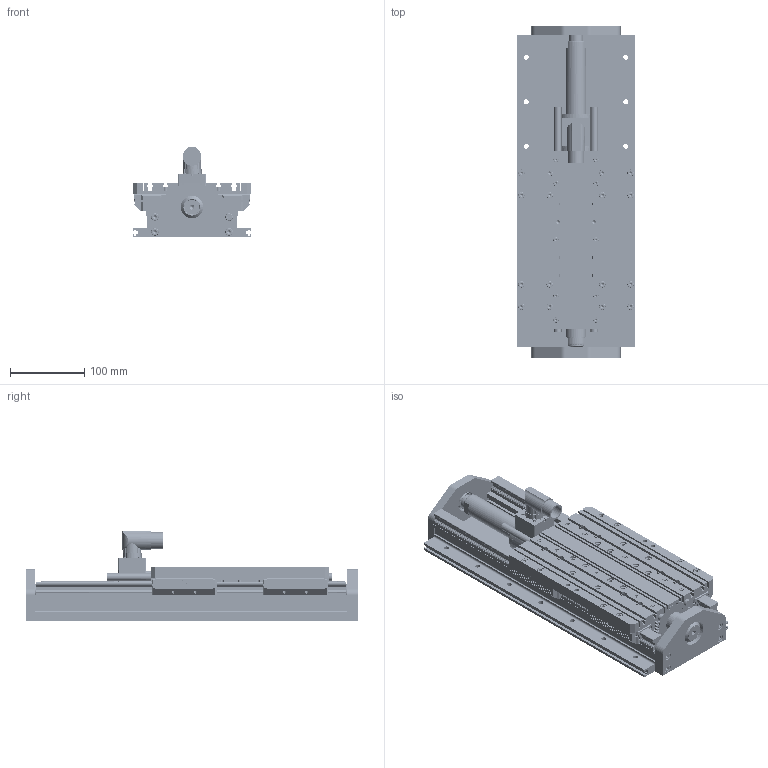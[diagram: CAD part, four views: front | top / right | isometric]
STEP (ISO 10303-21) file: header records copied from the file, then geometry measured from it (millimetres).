
FILE_DESCRIPTION(/* description */ (''),/* implementation_level */ '2;1');
FILE_NAME(/* name */ 'V:\CAD\Inventor-Stp\Linearmotorelement\GLMA 48-240\5000060.stp',/* time_stamp */ '2024-10-22T08:06:22+02:00',/* author */ ('ul'),/* organization */ (''),/* preprocessor_version */ 'ST-DEVELOPER v17',/* originating_system */ 'Autodesk Inventor 2018',/* authorisation */ '');
FILE_SCHEMA (('AUTOMOTIVE_DESIGN { 1 0 10303 214 3 1 1 }'));
Products named in the file (1): 5000060
Bounding box: 160 x 447 x 121.5 mm (x, y, z)
Volume: 2796392 mm3; surface area: 692122.8 mm2
Topology: 5 solids, 136 shells, 4195 faces, 12061 edges, 8128 vertices
Faces by surface type: plane 2871, cylinder 996, cone 219, torus 108, bspline 1
Full cylindrical faces by diameter (mm): 3.242 x46, 3.3 x4, 3.5 x4, 4 x62, 4.134 x16, 4.5 x66, 4.917 x20, 5 x16, 5.5 x32, 6 x12, 6.5 x8, 6.647 x14, 7 x64, 7.5 x24, 8 x32, 8.5 x18, 9 x28, 9.5 x8, 10 x14, 10.4 x1, 10.5 x12, 12 x1, 19 x1, 20 x2, 20.4 x1, 21 x2, 22 x2, 25 x1, 25.5 x1, 25.823 x1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
Entity records: 143194 total; most frequent: CARTESIAN_POINT 25784, ORIENTED_EDGE 23898, DIRECTION 23631, EDGE_CURVE 11949, VERTEX_POINT 8128, AXIS2_PLACEMENT_3D 7922, LINE 7787, VECTOR 7787
